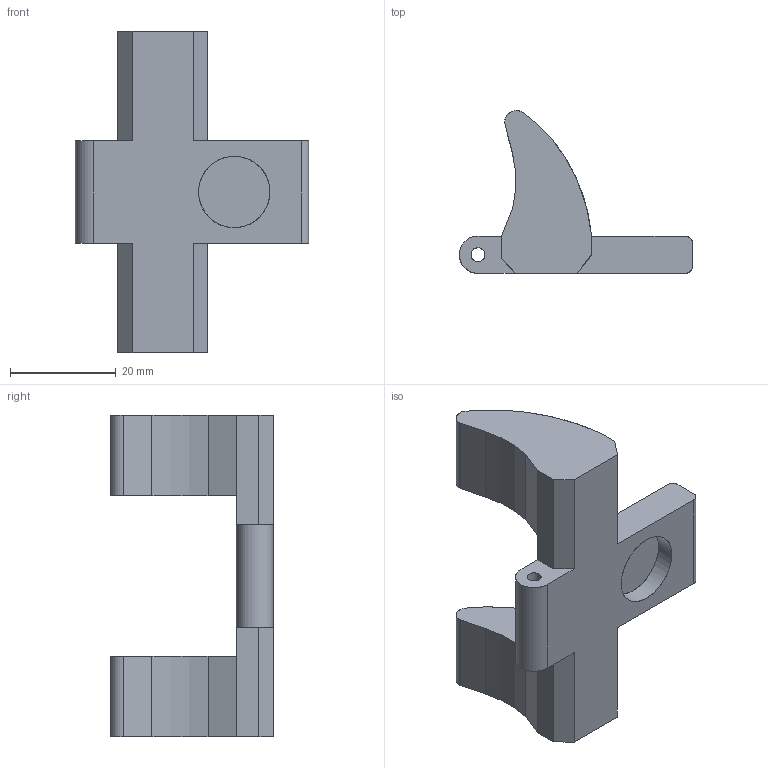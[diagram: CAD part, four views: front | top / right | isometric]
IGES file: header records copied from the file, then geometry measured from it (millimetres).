
Global section: file name: E:\M1337\M1337 Remodel\English\Clutch\IGES Files\Trigger Release.igs; native system: NX V2007; preprocessor: SIEMENS PLM Software NX 2027; date: 20260823.082036; units: inch
Bounding box: 44.14 x 30.79 x 60.82 mm (x, y, z)
Surface area: 6837.5 mm2 (no closed solid volume)
Topology: 0 solids, 0 shells, 37 faces, 268 edges, 320 vertices
Faces by surface type: bspline 37
